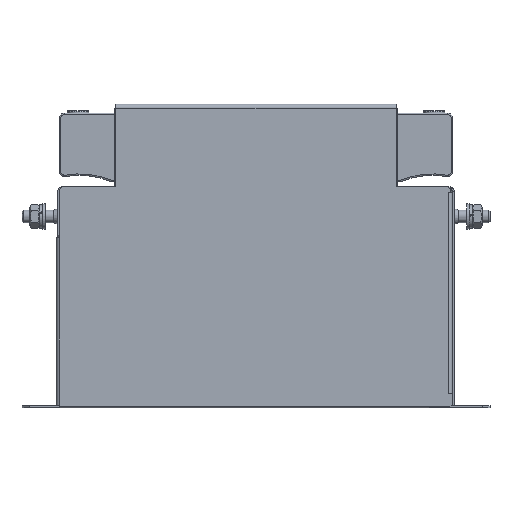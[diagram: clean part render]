
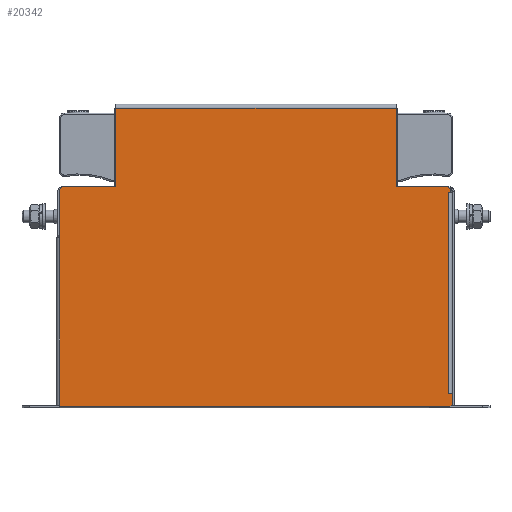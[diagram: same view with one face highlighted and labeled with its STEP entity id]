
A CAD part, top view. The second image highlights one B-rep face of the part: STEP entity #20342.
In plain terms, the highlighted planar face has unit normal (0, 0, 1).
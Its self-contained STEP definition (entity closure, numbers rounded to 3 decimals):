
#1989=LINE('',#33506,#3887);
#1994=LINE('',#33514,#3892);
#1996=LINE('',#33518,#3894);
#1999=LINE('',#33524,#3897);
#2001=LINE('',#33528,#3899);
#2010=LINE('',#33552,#3908);
#2011=LINE('',#33556,#3909);
#2017=LINE('',#33567,#3915);
#2018=LINE('',#33570,#3916);
#2021=LINE('',#33577,#3919);
#2025=LINE('',#33585,#3923);
#2029=LINE('',#33592,#3927);
#2040=LINE('',#33623,#3938);
#2043=LINE('',#33631,#3941);
#2044=LINE('',#33635,#3942);
#2050=LINE('',#33646,#3948);
#2051=LINE('',#33648,#3949);
#2053=LINE('',#33653,#3951);
#2057=LINE('',#33661,#3955);
#2061=LINE('',#33669,#3959);
#2071=LINE('',#33692,#3969);
#2074=LINE('',#33697,#3972);
#2075=LINE('',#33699,#3973);
#2077=LINE('',#33704,#3975);
#2079=LINE('',#33707,#3977);
#2099=LINE('',#33743,#3997);
#2101=LINE('',#33746,#3999);
#3887=VECTOR('',#27463,10.);
#3892=VECTOR('',#27470,10.);
#3894=VECTOR('',#27474,10.);
#3897=VECTOR('',#27479,10.);
#3899=VECTOR('',#27483,10.);
#3908=VECTOR('',#27510,10.);
#3909=VECTOR('',#27513,10.);
#3915=VECTOR('',#27521,10.);
#3916=VECTOR('',#27524,10.);
#3919=VECTOR('',#27529,10.);
#3923=VECTOR('',#27535,10.);
#3927=VECTOR('',#27541,10.);
#3938=VECTOR('',#27580,10.);
#3941=VECTOR('',#27589,10.);
#3942=VECTOR('',#27592,10.);
#3948=VECTOR('',#27600,10.);
#3949=VECTOR('',#27603,10.);
#3951=VECTOR('',#27607,10.);
#3955=VECTOR('',#27613,10.);
#3959=VECTOR('',#27619,10.);
#3969=VECTOR('',#27647,10.);
#3972=VECTOR('',#27652,10.);
#3973=VECTOR('',#27655,10.);
#3975=VECTOR('',#27659,10.);
#3977=VECTOR('',#27663,10.);
#3997=VECTOR('',#27701,10.);
#3999=VECTOR('',#27705,10.);
#4719=PLANE('',#22188);
#7157=FACE_OUTER_BOUND('',#8460,.T.);
#8460=EDGE_LOOP('',(#18816,#18817,#18818,#18819,#18820,#18821,#18822,#18823,
#18824,#18825,#18826,#18827,#18828,#18829,#18830,#18831,#18832,#18833,#18834,
#18835,#18836,#18837,#18838,#18839,#18840,#18841,#18842));
#10775=VERTEX_POINT('',#33503);
#10776=VERTEX_POINT('',#33505);
#10777=VERTEX_POINT('',#33510);
#10778=VERTEX_POINT('',#33512);
#10779=VERTEX_POINT('',#33516);
#10780=VERTEX_POINT('',#33520);
#10781=VERTEX_POINT('',#33522);
#10782=VERTEX_POINT('',#33526);
#10789=VERTEX_POINT('',#33554);
#10790=VERTEX_POINT('',#33555);
#10794=VERTEX_POINT('',#33564);
#10795=VERTEX_POINT('',#33569);
#10797=VERTEX_POINT('',#33575);
#10798=VERTEX_POINT('',#33576);
#10801=VERTEX_POINT('',#33584);
#10803=VERTEX_POINT('',#33590);
#10810=VERTEX_POINT('',#33627);
#10812=VERTEX_POINT('',#33633);
#10813=VERTEX_POINT('',#33634);
#10817=VERTEX_POINT('',#33643);
#10818=VERTEX_POINT('',#33651);
#10819=VERTEX_POINT('',#33652);
#10822=VERTEX_POINT('',#33660);
#10825=VERTEX_POINT('',#33667);
#10830=VERTEX_POINT('',#33694);
#10831=VERTEX_POINT('',#33701);
#10839=VERTEX_POINT('',#33741);
#13388=EDGE_CURVE('',#10775,#10776,#1989,.T.);
#13393=EDGE_CURVE('',#10777,#10778,#1994,.T.);
#13395=EDGE_CURVE('',#10778,#10779,#1996,.T.);
#13398=EDGE_CURVE('',#10780,#10781,#1999,.T.);
#13400=EDGE_CURVE('',#10781,#10782,#2001,.T.);
#13413=EDGE_CURVE('',#10782,#10777,#2010,.T.);
#13414=EDGE_CURVE('',#10789,#10790,#2011,.T.);
#13420=EDGE_CURVE('',#10794,#10789,#2017,.T.);
#13421=EDGE_CURVE('',#10790,#10795,#2018,.T.);
#13424=EDGE_CURVE('',#10797,#10798,#2021,.T.);
#13428=EDGE_CURVE('',#10801,#10797,#2025,.T.);
#13432=EDGE_CURVE('',#10798,#10803,#2029,.T.);
#13449=EDGE_CURVE('',#10803,#10794,#2040,.T.);
#13452=EDGE_CURVE('',#10776,#10810,#2043,.T.);
#13453=EDGE_CURVE('',#10812,#10813,#2044,.T.);
#13459=EDGE_CURVE('',#10817,#10812,#2050,.T.);
#13460=EDGE_CURVE('',#10813,#10810,#2051,.T.);
#13462=EDGE_CURVE('',#10818,#10819,#2053,.T.);
#13466=EDGE_CURVE('',#10822,#10818,#2057,.T.);
#13470=EDGE_CURVE('',#10819,#10825,#2061,.T.);
#13484=EDGE_CURVE('',#10825,#10817,#2071,.T.);
#13487=EDGE_CURVE('',#10822,#10830,#2074,.T.);
#13488=EDGE_CURVE('',#10830,#10779,#2075,.T.);
#13490=EDGE_CURVE('',#10831,#10795,#2077,.T.);
#13492=EDGE_CURVE('',#10780,#10831,#2079,.T.);
#13512=EDGE_CURVE('',#10801,#10839,#2099,.T.);
#13514=EDGE_CURVE('',#10839,#10775,#2101,.T.);
#18816=ORIENTED_EDGE('',*,*,#13514,.F.);
#18817=ORIENTED_EDGE('',*,*,#13512,.F.);
#18818=ORIENTED_EDGE('',*,*,#13428,.T.);
#18819=ORIENTED_EDGE('',*,*,#13424,.T.);
#18820=ORIENTED_EDGE('',*,*,#13432,.T.);
#18821=ORIENTED_EDGE('',*,*,#13449,.T.);
#18822=ORIENTED_EDGE('',*,*,#13420,.T.);
#18823=ORIENTED_EDGE('',*,*,#13414,.T.);
#18824=ORIENTED_EDGE('',*,*,#13421,.T.);
#18825=ORIENTED_EDGE('',*,*,#13490,.F.);
#18826=ORIENTED_EDGE('',*,*,#13492,.F.);
#18827=ORIENTED_EDGE('',*,*,#13398,.T.);
#18828=ORIENTED_EDGE('',*,*,#13400,.T.);
#18829=ORIENTED_EDGE('',*,*,#13413,.T.);
#18830=ORIENTED_EDGE('',*,*,#13393,.T.);
#18831=ORIENTED_EDGE('',*,*,#13395,.T.);
#18832=ORIENTED_EDGE('',*,*,#13488,.F.);
#18833=ORIENTED_EDGE('',*,*,#13487,.F.);
#18834=ORIENTED_EDGE('',*,*,#13466,.T.);
#18835=ORIENTED_EDGE('',*,*,#13462,.T.);
#18836=ORIENTED_EDGE('',*,*,#13470,.T.);
#18837=ORIENTED_EDGE('',*,*,#13484,.T.);
#18838=ORIENTED_EDGE('',*,*,#13459,.T.);
#18839=ORIENTED_EDGE('',*,*,#13453,.T.);
#18840=ORIENTED_EDGE('',*,*,#13460,.T.);
#18841=ORIENTED_EDGE('',*,*,#13452,.F.);
#18842=ORIENTED_EDGE('',*,*,#13388,.F.);
#20342=ADVANCED_FACE('',(#7157),#4719,.T.);
#22188=AXIS2_PLACEMENT_3D('',#33749,#27710,#27711);
#27463=DIRECTION('',(-1.,0.,0.));
#27470=DIRECTION('',(0.,-1.,0.));
#27474=DIRECTION('',(-1.,0.,0.));
#27479=DIRECTION('',(-1.,0.,0.));
#27483=DIRECTION('',(0.,1.,0.));
#27510=DIRECTION('',(-1.,0.,0.));
#27513=DIRECTION('',(0.,1.,0.));
#27521=DIRECTION('',(-1.,0.,0.));
#27524=DIRECTION('',(1.,0.,0.));
#27529=DIRECTION('',(0.,1.,0.));
#27535=DIRECTION('',(-1.,0.,0.));
#27541=DIRECTION('',(1.,0.,0.));
#27580=DIRECTION('',(0.,1.,0.));
#27589=DIRECTION('',(0.,1.,0.));
#27592=DIRECTION('',(0.,-1.,0.));
#27600=DIRECTION('',(1.,0.,0.));
#27603=DIRECTION('',(-1.,0.,0.));
#27607=DIRECTION('',(0.,-1.,0.));
#27613=DIRECTION('',(1.,0.,0.));
#27619=DIRECTION('',(-1.,0.,0.));
#27647=DIRECTION('',(0.,-1.,0.));
#27652=DIRECTION('',(0.,1.,0.));
#27655=DIRECTION('',(0.707,0.707,0.));
#27659=DIRECTION('',(0.,-1.,0.));
#27663=DIRECTION('',(0.707,-0.707,0.));
#27701=DIRECTION('',(0.,-1.,0.));
#27705=DIRECTION('',(-0.707,-0.707,0.));
#27710=DIRECTION('center_axis',(0.,0.,
1.));
#27711=DIRECTION('ref_axis',(1.,0.,0.));
#33503=CARTESIAN_POINT('',(76.6,0.5,19.95));
#33505=CARTESIAN_POINT('',(-77.6,0.5,19.95));
#33506=CARTESIAN_POINT('',(-76.8,0.5,19.95));
#33510=CARTESIAN_POINT('',(-55.5,118.5,19.95));
#33512=CARTESIAN_POINT('',(-55.5,87.3,19.95));
#33514=CARTESIAN_POINT('',(-55.5,90.125,19.95));
#33516=CARTESIAN_POINT('',(-76.6,87.3,19.95));
#33518=CARTESIAN_POINT('',(-27.75,87.3,19.95));
#33520=CARTESIAN_POINT('',(75.8,87.3,19.95));
#33522=CARTESIAN_POINT('',(55.5,87.3,19.95));
#33524=CARTESIAN_POINT('',(38.4,87.3,19.95));
#33526=CARTESIAN_POINT('',(55.5,118.5,19.95));
#33528=CARTESIAN_POINT('',(55.5,73.775,19.95));
#33552=CARTESIAN_POINT('',(27.75,118.5,19.95));
#33554=CARTESIAN_POINT('',(75.99,85.3,19.95));
#33555=CARTESIAN_POINT('',(75.99,85.31,19.95));
#33556=CARTESIAN_POINT('',(75.99,72.775,19.95));
#33564=CARTESIAN_POINT('',(76.,85.3,19.95));
#33567=CARTESIAN_POINT('',(38.4,85.3,19.95));
#33569=CARTESIAN_POINT('',(76.8,85.31,19.95));
#33570=CARTESIAN_POINT('',(37.995,85.31,19.95));
#33575=CARTESIAN_POINT('',(75.99,5.49,19.95));
#33576=CARTESIAN_POINT('',(75.99,5.5,19.95));
#33577=CARTESIAN_POINT('',(75.99,32.87,19.95));
#33584=CARTESIAN_POINT('',(77.6,5.49,19.95));
#33585=CARTESIAN_POINT('',(38.4,5.49,19.95));
#33590=CARTESIAN_POINT('',(76.,5.5,19.95));
#33592=CARTESIAN_POINT('',(37.995,5.5,19.95));
#33623=CARTESIAN_POINT('',(76.,32.875,19.95));
#33627=CARTESIAN_POINT('',(-77.6,0.99,19.95));
#33631=CARTESIAN_POINT('',(-77.6,30.375,19.95));
#33633=CARTESIAN_POINT('',(-77.49,1.,19.95));
#33634=CARTESIAN_POINT('',(-77.49,0.99,19.95));
#33635=CARTESIAN_POINT('',(-77.49,30.625,19.95));
#33643=CARTESIAN_POINT('',(-77.5,1.,19.95));
#33646=CARTESIAN_POINT('',(-39.15,1.,19.95));
#33648=CARTESIAN_POINT('',(-38.745,0.99,19.95));
#33651=CARTESIAN_POINT('',(-77.49,67.31,19.95));
#33652=CARTESIAN_POINT('',(-77.49,67.3,19.95));
#33653=CARTESIAN_POINT('',(-77.49,63.78,19.95));
#33660=CARTESIAN_POINT('',(-77.6,67.31,19.95));
#33661=CARTESIAN_POINT('',(-39.15,67.31,19.95));
#33667=CARTESIAN_POINT('',(-77.5,67.3,19.95));
#33669=CARTESIAN_POINT('',(-38.745,67.3,19.95));
#33692=CARTESIAN_POINT('',(-77.5,63.775,19.95));
#33694=CARTESIAN_POINT('',(-77.6,86.3,19.95));
#33697=CARTESIAN_POINT('',(-77.6,30.375,19.95));
#33699=CARTESIAN_POINT('',(-64.462,99.438,19.95));
#33701=CARTESIAN_POINT('',(76.8,86.3,19.95));
#33704=CARTESIAN_POINT('',(76.8,0.5,19.95));
#33707=CARTESIAN_POINT('',(63.862,99.238,19.95));
#33741=CARTESIAN_POINT('',(77.6,1.5,19.95));
#33743=CARTESIAN_POINT('',(77.6,5.49,19.95));
#33746=CARTESIAN_POINT('',(72.638,-3.463,19.95));
#33749=CARTESIAN_POINT('Origin',(0.,60.25,19.95));
